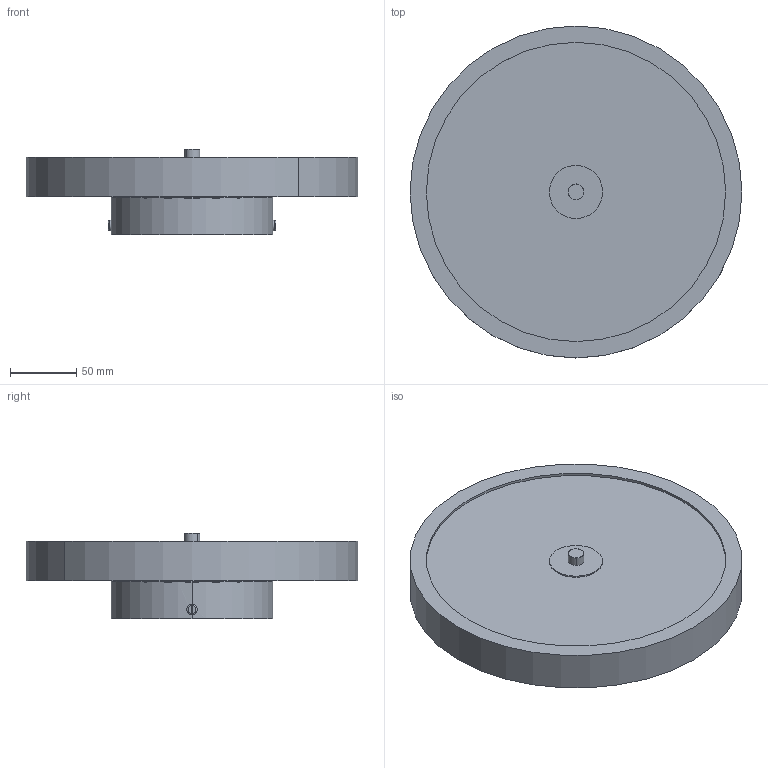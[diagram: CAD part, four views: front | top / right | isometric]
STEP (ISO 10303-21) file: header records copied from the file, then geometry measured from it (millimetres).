
FILE_DESCRIPTION (( 'STEP AP203' ), '1' );
FILE_NAME ('Spin aplic_Ø25cm_forma.STEP', '2025-07-08T07:55:34', ( '' ), ( '' ), 'SwSTEP 2.0', 'SolidWorks 2013', '' );
FILE_SCHEMA (( 'CONFIG_CONTROL_DESIGN' ));
Length unit declared in the file: millimetre
Products named in the file (10): GI111_Finalet Ø12x7_M10x1; AG019_M4x8; GI197_SUP. FIXACIÓ FLORÓ 120; Spin aplic_Ø25cm_forma; PP048_Difusor amb lli Ø230; GI451_Arandela Ø50 pas 10; FU035_Anell Spin Ø250x31mm; GI443_Tapa Ø245 fixació LED; PP047_Difusor amb lli Ø224; AR117_FLORÓ ø120x30 2xM4 sistema USA
Assembly tree (10 placements, depth 2):
  Spin aplic_Ø25cm_forma
    GI197_SUP. FIXACIÓ FLORÓ 120
    AR117_FLORÓ ø120x30 2xM4 sistema USA
    PP047_Difusor amb lli Ø224
    GI443_Tapa Ø245 fixació LED
    FU035_Anell Spin Ø250x31mm
    PP048_Difusor amb lli Ø230
    GI451_Arandela Ø50 pas 10
    GI111_Finalet Ø12x7_M10x1
    AG019_M4x8  x2
Bounding box: 250 x 250 x 64.5 mm (x, y, z)
Volume: 510519 mm3; surface area: 363128.1 mm2
Topology: 10 solids, 10 shells, 170 faces, 384 edges, 244 vertices
Faces by surface type: cylinder 96, plane 46, torus 18, cone 6, bspline 4
Entity records: 5982 total; most frequent: CARTESIAN_POINT 1200, DIRECTION 864, ORIENTED_EDGE 708, AXIS2_PLACEMENT_3D 374, EDGE_CURVE 354, VERTEX_POINT 226, CIRCLE 210, EDGE_LOOP 194
